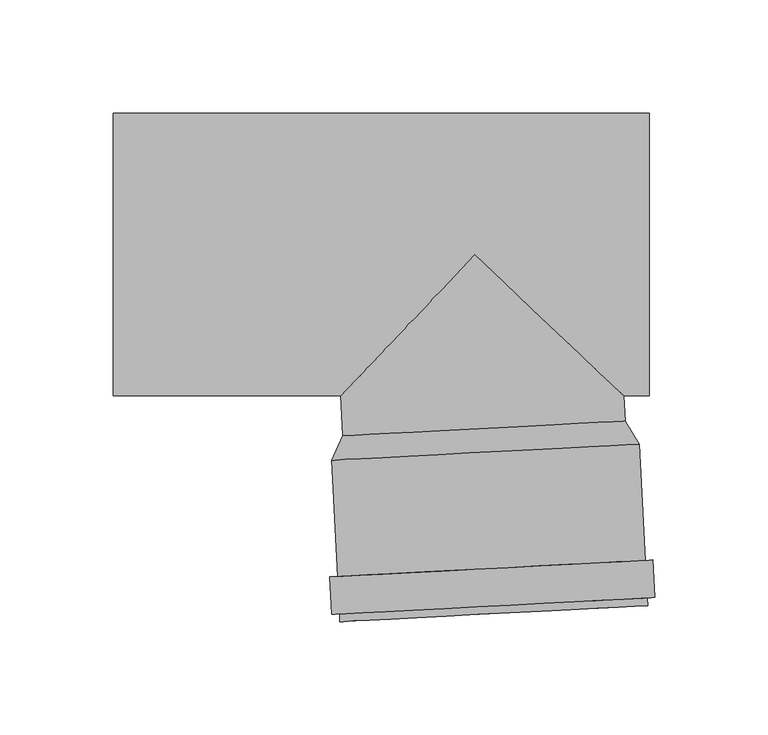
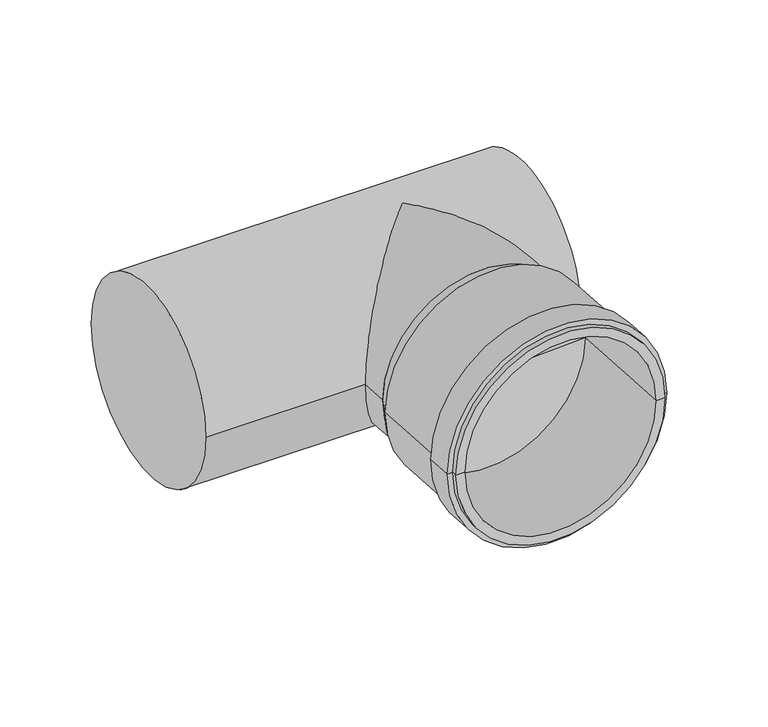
"""IFC4 building model written with IfcOpenShell, lengths in millimetres: pipe fitting geometry, pf_HTEA : pf_HTEA."""

from ifc_helpers import new_model, si_unit, frame, origin, place, context, project, spatial, polyline, circle_curve, ellipse_curve, source, transform, mapped, element, save
from ifc_brep_helpers import plane_surface, cylinder_surface, revolved_surface, advanced_brep


def pipe_fitting_72a4b356(model_context):
    return source(origin(), model_context, "Body", "AdvancedBrep", [
        advanced_brep(
        [(-58.3844773, -80.1654714, 0.0), (66.4442146, -73.6234769, 0.0), (72.5860675, -83.8160057, 0.0), (-63.4272751, -90.9441629, 0.0), (4.0298686, -76.8944742, 0.0), (-59.6852543, -162.3461746, 0.0), (76.3280884, -155.2180174, 0.0), (70.735763, -155.5110988, 0.0), (-54.0929289, -162.0530933, 0.0), (-59.8631965, -158.9508342, 0.0), (76.1501461, -151.822677, 0.0), (-63.2585369, -159.1287765, 0.0), (79.5454865, -151.6447347, 0.0), (-64.1273138, -142.5515262, 0.0), (78.6767097, -135.0674845, 0.0), (-60.7319734, -142.373584, 0.0), (75.2813692, -135.2454267, 0.0), (-57.8349498, -90.6510816, 0.0), (66.9937421, -84.109087, 0.0), (4.5793962, -87.3800843, 0.0)],
        [
            (0, 1, circle_curve(frame((4.0298686, -76.8944742, 0.0), z_axis=(0.0523359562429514, -0.9986295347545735, 0.0), x_axis=(0.9986295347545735, 0.0523359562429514, 0.0)), 62.5)),
            (1, 2),
            (2, 3, circle_curve(frame((4.5793962, -87.3800843, 0.0), z_axis=(-0.0523359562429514, 0.9986295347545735, 0.0), x_axis=(0.9986295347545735, 0.0523359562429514, 0.0)), 68.1)),
            (3, 0),
            (1, 0, circle_curve(frame((4.0298686, -76.8944742, 0.0), z_axis=(0.0523359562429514, -0.9986295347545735, 0.0), x_axis=(0.9986295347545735, 0.0523359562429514, 0.0)), 62.5)),
            (3, 2, circle_curve(frame((4.5793962, -87.3800843, 0.0), z_axis=(-0.0523359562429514, 0.9986295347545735, 0.0), x_axis=(0.9986295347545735, 0.0523359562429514, 0.0)), 68.1)),
            (4, 1),
            (0, 4),
            (5, 6, circle_curve(frame((8.321417, -158.782096, 0.0), z_axis=(0.0523359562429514, -0.9986295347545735, 0.0), x_axis=(0.9986295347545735, 0.0523359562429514, 0.0)), 68.1)),
            (6, 7),
            (7, 8, circle_curve(frame((8.321417, -158.782096, 0.0), z_axis=(-0.0523359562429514, 0.9986295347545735, 0.0), x_axis=(0.9986295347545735, 0.0523359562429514, 0.0)), 62.5)),
            (8, 5),
            (6, 5, circle_curve(frame((8.321417, -158.782096, 0.0), z_axis=(0.0523359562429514, -0.9986295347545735, 0.0), x_axis=(0.9986295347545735, 0.0523359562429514, 0.0)), 68.1)),
            (8, 7, circle_curve(frame((8.321417, -158.782096, 0.0), z_axis=(-0.0523359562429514, 0.9986295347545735, 0.0), x_axis=(0.9986295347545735, 0.0523359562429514, 0.0)), 62.5)),
            (9, 10, circle_curve(frame((8.1434748, -155.3867556, 0.0), z_axis=(0.0523359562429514, -0.9986295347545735, 0.0), x_axis=(0.9986295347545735, 0.0523359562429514, 0.0)), 68.1)),
            (10, 6),
            (5, 9),
            (10, 9, circle_curve(frame((8.1434748, -155.3867556, 0.0), z_axis=(0.0523359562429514, -0.9986295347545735, 0.0), x_axis=(0.9986295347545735, 0.0523359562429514, 0.0)), 68.1)),
            (11, 12, circle_curve(frame((8.1434748, -155.3867556, 0.0), z_axis=(0.0523359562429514, -0.9986295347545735, 0.0), x_axis=(0.9986295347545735, 0.0523359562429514, 0.0)), 71.5)),
            (12, 10),
            (9, 11),
            (12, 11, circle_curve(frame((8.1434748, -155.3867556, 0.0), z_axis=(0.0523359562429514, -0.9986295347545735, 0.0), x_axis=(0.9986295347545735, 0.0523359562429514, 0.0)), 71.5)),
            (13, 14, circle_curve(frame((7.2746979, -138.8095053, 0.0), z_axis=(0.0523359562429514, -0.9986295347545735, 0.0), x_axis=(0.9986295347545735, 0.0523359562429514, 0.0)), 71.5)),
            (14, 12),
            (11, 13),
            (14, 13, circle_curve(frame((7.2746979, -138.8095053, 0.0), z_axis=(0.0523359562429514, -0.9986295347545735, 0.0), x_axis=(0.9986295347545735, 0.0523359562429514, 0.0)), 71.5)),
            (15, 16, circle_curve(frame((7.2746979, -138.8095053, 0.0), z_axis=(0.0523359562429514, -0.9986295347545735, 0.0), x_axis=(0.9986295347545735, 0.0523359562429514, 0.0)), 68.1)),
            (16, 14),
            (13, 15),
            (16, 15, circle_curve(frame((7.2746979, -138.8095053, 0.0), z_axis=(0.0523359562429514, -0.9986295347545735, 0.0), x_axis=(0.9986295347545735, 0.0523359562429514, 0.0)), 68.1)),
            (2, 16),
            (15, 3),
            (17, 18, circle_curve(frame((4.5793962, -87.3800843, 0.0), z_axis=(0.0523359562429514, -0.9986295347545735, 0.0), x_axis=(0.9986295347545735, 0.0523359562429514, 0.0)), 62.5)),
            (18, 19),
            (19, 17),
            (18, 17, circle_curve(frame((4.5793962, -87.3800843, 0.0), z_axis=(0.0523359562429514, -0.9986295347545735, 0.0), x_axis=(0.9986295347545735, 0.0523359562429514, 0.0)), 62.5)),
            (7, 18),
            (17, 8),
        ],
        [
            revolved_surface(polyline([(72.5860675, -83.8160057, 0.0), (66.4442146, -73.6234769, 0.0)]), (4.0298686, -76.8944742, 0.0), (-0.0523359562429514, 0.9986295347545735, 0.0)),
            plane_surface(frame((4.0298686, -76.8944742, 0.0), z_axis=(-0.0523359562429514, 0.9986295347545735, 0.0), x_axis=(0.9986295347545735, 0.0523359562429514, 0.0))),
            plane_surface(frame((8.321417, -158.782096, 0.0), z_axis=(0.0523359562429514, -0.9986295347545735, 0.0), x_axis=(0.9986295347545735, 0.0523359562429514, 0.0))),
            cylinder_surface(frame((4.0298686, -76.8944742, 0.0), z_axis=(-0.0523359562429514, 0.9986295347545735, 0.0), x_axis=(0.9986295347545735, 0.0523359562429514, 0.0)), 68.1),
            plane_surface(frame((8.1434748, -155.3867556, 0.0), z_axis=(0.0523359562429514, -0.9986295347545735, 0.0), x_axis=(0.9986295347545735, 0.0523359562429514, 0.0))),
            cylinder_surface(frame((4.0298686, -76.8944742, 0.0), z_axis=(-0.0523359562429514, 0.9986295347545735, 0.0), x_axis=(0.9986295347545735, 0.0523359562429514, 0.0)), 71.5),
            plane_surface(frame((7.2746979, -138.8095053, 0.0), z_axis=(-0.0523359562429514, 0.9986295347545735, 0.0), x_axis=(0.9986295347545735, 0.0523359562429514, 0.0))),
            plane_surface(frame((4.5793962, -87.3800843, 0.0), z_axis=(0.0523359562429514, -0.9986295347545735, 0.0), x_axis=(0.9986295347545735, 0.0523359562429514, 0.0))),
            revolved_surface(polyline([(66.99374206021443, -84.10908700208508, 0.0), (70.73576293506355, -155.5110988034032, 0.0)]), (4.0298686, -76.8944742, 0.0), (-0.0523359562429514, 0.9986295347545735, 0.0)),
        ],
        [
            (0, [[1, 2, 3, 4]]),
            (0, [[5, -4, 6, -2]]),
            (1, [[7, -1, 8]]),
            (1, [[-8, -5, -7]]),
            (2, [[9, 10, 11, 12]]),
            (2, [[13, -12, 14, -10]]),
            (3, [[15, 16, -9, 17]]),
            (3, [[18, -17, -13, -16]]),
            (4, [[19, 20, -15, 21]]),
            (4, [[22, -21, -18, -20]]),
            (5, [[23, 24, -19, 25]]),
            (5, [[26, -25, -22, -24]]),
            (6, [[27, 28, -23, 29]]),
            (6, [[30, -29, -26, -28]]),
            (3, [[-3, 31, -27, 32]]),
            (3, [[-6, -32, -30, -31]]),
            (7, [[33, 34, 35]]),
            (7, [[36, -35, -34]]),
            (8, [[-11, 37, -33, 38]]),
            (8, [[-14, -38, -36, -37]]),
        ],
    ),
        advanced_brep(
        [(-58.3844773, -80.1654714, 0.0), (66.4442146, -73.6234769, 0.0), (-160.0, -62.5, 0.0), (-160.0, 62.5, 0.0), (77.0, -62.5, 0.0), (77.0, 62.5, 0.0), (-59.3102854, -62.5, 0.0), (0.0, 0.0, 62.5), (65.8612578, -62.5, 0.0), (0.0, 0.0, -62.5)],
        [
            (0, 1, circle_curve(frame((4.0298686, -76.8944742, 0.0), z_axis=(0.05233595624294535, -0.9986295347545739, 0.0), x_axis=(0.9986295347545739, 0.05233595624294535, 0.0)), 62.5)),
            (1, 0, circle_curve(frame((4.0298686, -76.8944742, 0.0), z_axis=(0.05233595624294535, -0.9986295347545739, 0.0), x_axis=(0.9986295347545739, 0.05233595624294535, 0.0)), 62.5)),
            (2, 3, circle_curve(frame((-160.0, 0.0, 0.0), z_axis=(-1.0, 0.0, 0.0), x_axis=(0.0, 1.0, 0.0)), 62.5)),
            (3, 2, circle_curve(frame((-160.0, 0.0, 0.0), z_axis=(-1.0, 0.0, 0.0), x_axis=(0.0, 1.0, 0.0)), 62.5)),
            (4, 5, circle_curve(frame((77.0, 0.0, 0.0), z_axis=(1.0, 0.0, 0.0), x_axis=(0.0, 1.0, 0.0)), 62.5)),
            (5, 4, circle_curve(frame((77.0, 0.0, 0.0), z_axis=(1.0, 0.0, 0.0), x_axis=(0.0, 1.0, 0.0)), 62.5)),
            (2, 6),
            (6, 7, ellipse_curve(frame((0.0, 0.0, 0.0), z_axis=(-0.7253743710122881, 0.6883545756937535, 0.0), x_axis=(-0.6883545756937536, -0.7253743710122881, 0.0)), 86.1624045, 62.5)),
            (7, 8, ellipse_curve(frame((0.0, 0.0, 0.0), z_axis=(0.6883545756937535, 0.7253743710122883, 0.0), x_axis=(-0.7253743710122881, 0.6883545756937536, 0.0)), 90.7962295, 62.5)),
            (8, 4),
            (5, 3),
            (8, 9, ellipse_curve(frame((0.0, 0.0, 0.0), z_axis=(0.6883545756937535, 0.7253743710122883, 0.0), x_axis=(-0.7253743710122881, 0.6883545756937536, 0.0)), 90.7962295, 62.5)),
            (9, 6, ellipse_curve(frame((0.0, 0.0, 0.0), z_axis=(-0.7253743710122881, 0.6883545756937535, 0.0), x_axis=(-0.6883545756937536, -0.7253743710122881, 0.0)), 86.1624045, 62.5)),
            (1, 8),
            (6, 0),
        ],
        [
            plane_surface(frame((4.0298686, -76.8944742, 0.0), z_axis=(0.05233595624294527, -0.9986295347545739, 0.0), x_axis=(0.0, 0.0, 1.0))),
            plane_surface(frame((-160.0, 0.0, 0.0), z_axis=(-1.0, 0.0, 0.0), x_axis=(0.0, 0.0, 1.0))),
            plane_surface(frame((77.0, 0.0, 0.0), z_axis=(1.0, 0.0, 0.0), x_axis=(0.0, 0.0, 1.0))),
            cylinder_surface(frame((-160.0, 0.0, 0.0), z_axis=(-1.0, 0.0, 0.0), x_axis=(0.0, 1.0, 0.0)), 62.5),
            cylinder_surface(frame((0.0, 0.0, 0.0), z_axis=(-0.05233595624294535, 0.9986295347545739, 0.0), x_axis=(0.9986295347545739, 0.05233595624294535, 0.0)), 62.5),
        ],
        [
            (0, [[1, 2]]),
            (1, [[3, 4]]),
            (2, [[5, 6]]),
            (3, [[-3, 7, 8, 9, 10, -6, 11]]),
            (3, [[-4, -11, -5, -10, 12, 13, -7]]),
            (4, [[-2, 14, -9, -8, 15]]),
            (4, [[-1, -15, -13, -12, -14]]),
        ],
    ),
    ])


if __name__ == "__main__":
    model = new_model("IFC4")
    model_context = context("Model", 3, world=origin())
    ifc_project = project(units=[si_unit("LENGTHUNIT", "METRE", prefix="MILLI")], contexts=[model_context])
    site = spatial("IfcSite", under=ifc_project)
    building = spatial("IfcBuilding", under=site)
    placement = place(None, origin())
    pipe_fitting_shape = pipe_fitting_72a4b356(model_context)
    element("IfcPipeFitting", 1, ObjectType="pf_HTEA : pf_HTEA", at=placement, inside=building, context=model_context, shape_type="MappedRepresentation", body=[
        mapped(pipe_fitting_shape, transform((0.0, 0.0, 0.0), x_axis=(1.0, 0.0, 0.0), y_axis=(0.0, 1.0, 0.0), z_axis=(0.0, 0.0, 1.0))),
    ])
    save(model, "model.ifc")
